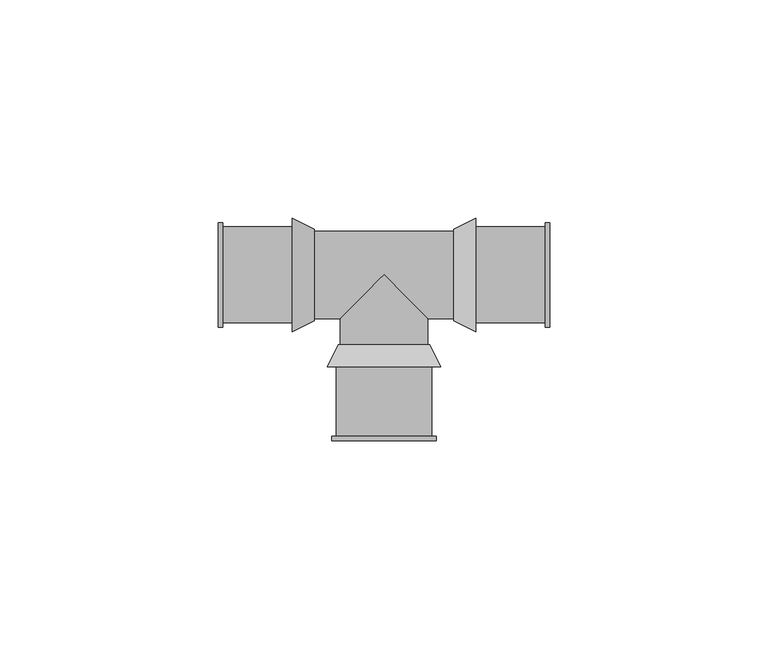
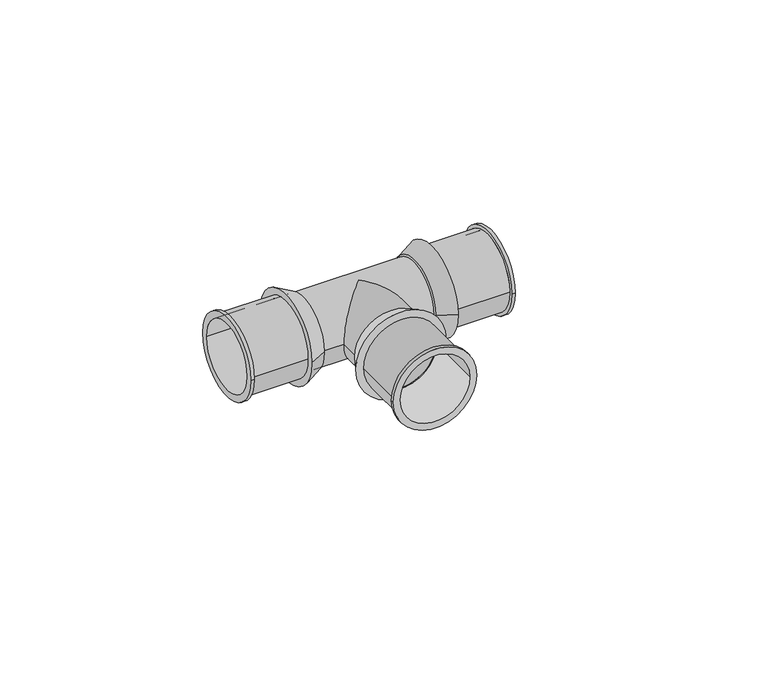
"""IFC4 building model written with IfcOpenShell, lengths in millimetres: pipe fitting geometry, SuperPipe_Tee_SPressPlus : SuperPipe_Tee_SPressPlus."""

from ifc_helpers import new_model, si_unit, point, frame, origin, origin_2d, place, context, project, spatial, polyline, circle_curve, ellipse_curve, trimmed, segment, composite_curve, outline, extrude, source, transform, mapped, element, save
from ifc_brep_helpers import plane_surface, cylinder_surface, revolved_surface, advanced_brep


def pipe_fitting_a59ca56d(model_context):
    return source(origin(), model_context, "Body", "SolidModel", [
        advanced_brep(
        [(-38.0, -12.0, 0.0), (-38.0, 12.0, 0.0), (-38.0, -10.0, 0.0), (-38.0, 10.0, 0.0), (-21.0, -11.0, 0.0), (-21.0, 11.0, 0.0), (-21.0, -10.0, 0.0), (-21.0, 10.0, 0.0), (-37.0, -10.0, 0.0), (-37.0, 10.0, 0.0), (-37.0, 11.0, 0.0), (-37.0, -11.0, 0.0), (-37.0, -12.0, 0.0), (-37.0, 12.0, 0.0)],
        [
            (0, 1, circle_curve(frame((-38.0, 0.0, 0.0), z_axis=(-1.0, 0.0, 0.0), x_axis=(0.0, 1.0, 0.0)), 12.0)),
            (1, 0, circle_curve(frame((-38.0, 0.0, 0.0), z_axis=(-1.0, 0.0, 0.0), x_axis=(0.0, 1.0, 0.0)), 12.0)),
            (2, 3, circle_curve(frame((-38.0, 0.0, 0.0), z_axis=(1.0, 0.0, 0.0), x_axis=(0.0, 1.0, 0.0)), 10.0)),
            (3, 2, circle_curve(frame((-38.0, 0.0, 0.0), z_axis=(1.0, 0.0, 0.0), x_axis=(0.0, 1.0, 0.0)), 10.0)),
            (4, 5, circle_curve(frame((-21.0, 0.0, 0.0), z_axis=(1.0, 0.0, 0.0), x_axis=(0.0, 1.0, 0.0)), 11.0)),
            (5, 4, circle_curve(frame((-21.0, 0.0, 0.0), z_axis=(1.0, 0.0, 0.0), x_axis=(0.0, 1.0, 0.0)), 11.0)),
            (6, 7, circle_curve(frame((-21.0, 0.0, 0.0), z_axis=(-1.0, 0.0, 0.0), x_axis=(0.0, 1.0, 0.0)), 10.0)),
            (7, 6, circle_curve(frame((-21.0, 0.0, 0.0), z_axis=(-1.0, 0.0, 0.0), x_axis=(0.0, 1.0, 0.0)), 10.0)),
            (2, 8),
            (8, 6),
            (7, 9),
            (9, 3),
            (5, 10),
            (10, 11, circle_curve(frame((-37.0, 0.0, 0.0), z_axis=(1.0, 0.0, 0.0), x_axis=(0.0, 1.0, 0.0)), 11.0)),
            (11, 4),
            (11, 10, circle_curve(frame((-37.0, 0.0, 0.0), z_axis=(1.0, 0.0, 0.0), x_axis=(0.0, 1.0, 0.0)), 11.0)),
            (12, 13, circle_curve(frame((-37.0, 0.0, 0.0), z_axis=(1.0, 0.0, 0.0), x_axis=(0.0, 1.0, 0.0)), 12.0)),
            (13, 12, circle_curve(frame((-37.0, 0.0, 0.0), z_axis=(1.0, 0.0, 0.0), x_axis=(0.0, 1.0, 0.0)), 12.0)),
            (0, 12),
            (13, 1),
        ],
        [
            plane_surface(frame((-38.0, 0.0, 0.0), z_axis=(-1.0, 0.0, 0.0), x_axis=(0.0, 0.0, 1.0))),
            plane_surface(frame((-21.0, 0.0, 0.0), z_axis=(1.0, 0.0, 0.0), x_axis=(0.0, 0.0, 1.0))),
            revolved_surface(polyline([(-21.0, 10.0, 0.0), (-38.0, 10.0, 0.0)]), (-38.0, 0.0, 0.0), (1.0, 0.0, 0.0)),
            cylinder_surface(frame((-38.0, 0.0, 0.0), z_axis=(-1.0, 0.0, 0.0), x_axis=(0.0, 1.0, 0.0)), 11.0),
            plane_surface(frame((-37.0, 0.0, 0.0), z_axis=(1.0, 0.0, 0.0), x_axis=(0.0, 0.0, 1.0))),
            cylinder_surface(frame((-38.0, 0.0, 0.0), z_axis=(-1.0, 0.0, 0.0), x_axis=(0.0, 1.0, 0.0)), 12.0),
        ],
        [
            (0, [[1, 2], [3, 4]]),
            (1, [[5, 6], [7, 8]]),
            (2, [[-3, 9, 10, -8, 11, 12]]),
            (2, [[-4, -12, -11, -7, -10, -9]]),
            (3, [[-6, 13, 14, 15]]),
            (3, [[-5, -15, 16, -13]]),
            (4, [[17, 18], [-14, -16]]),
            (5, [[-1, 19, -18, 20]]),
            (5, [[-2, -20, -17, -19]]),
        ],
    ),
        advanced_brep(
        [(21.0, -11.0, 0.0), (21.0, 11.0, 0.0), (21.0, -10.0, 0.0), (21.0, 10.0, 0.0), (38.0, -12.0, 0.0), (38.0, 12.0, 0.0), (38.0, -10.0, 0.0), (38.0, 10.0, 0.0), (37.0, -11.0, 0.0), (37.0, 11.0, 0.0), (37.0, -10.0, 0.0), (37.0, 10.0, 0.0), (37.0, -12.0, 0.0), (37.0, 12.0, 0.0)],
        [
            (0, 1, circle_curve(frame((21.0, 0.0, 0.0), z_axis=(-1.0, 0.0, 0.0), x_axis=(0.0, 1.0, 0.0)), 11.0)),
            (1, 0, circle_curve(frame((21.0, 0.0, 0.0), z_axis=(-1.0, 0.0, 0.0), x_axis=(0.0, 1.0, 0.0)), 11.0)),
            (2, 3, circle_curve(frame((21.0, 0.0, 0.0), z_axis=(1.0, 0.0, 0.0), x_axis=(0.0, 1.0, 0.0)), 10.0)),
            (3, 2, circle_curve(frame((21.0, 0.0, 0.0), z_axis=(1.0, 0.0, 0.0), x_axis=(0.0, 1.0, 0.0)), 10.0)),
            (4, 5, circle_curve(frame((38.0, 0.0, 0.0), z_axis=(1.0, 0.0, 0.0), x_axis=(0.0, 1.0, 0.0)), 12.0)),
            (5, 4, circle_curve(frame((38.0, 0.0, 0.0), z_axis=(1.0, 0.0, 0.0), x_axis=(0.0, 1.0, 0.0)), 12.0)),
            (6, 7, circle_curve(frame((38.0, 0.0, 0.0), z_axis=(-1.0, 0.0, 0.0), x_axis=(0.0, 1.0, 0.0)), 10.0)),
            (7, 6, circle_curve(frame((38.0, 0.0, 0.0), z_axis=(-1.0, 0.0, 0.0), x_axis=(0.0, 1.0, 0.0)), 10.0)),
            (0, 8),
            (8, 9, circle_curve(frame((37.0, 0.0, 0.0), z_axis=(-1.0, 0.0, 0.0), x_axis=(0.0, 1.0, 0.0)), 11.0)),
            (9, 1),
            (9, 8, circle_curve(frame((37.0, 0.0, 0.0), z_axis=(-1.0, 0.0, 0.0), x_axis=(0.0, 1.0, 0.0)), 11.0)),
            (2, 10),
            (10, 6),
            (7, 11),
            (11, 3),
            (12, 13, circle_curve(frame((37.0, 0.0, 0.0), z_axis=(-1.0, 0.0, 0.0), x_axis=(0.0, 1.0, 0.0)), 12.0)),
            (13, 12, circle_curve(frame((37.0, 0.0, 0.0), z_axis=(-1.0, 0.0, 0.0), x_axis=(0.0, 1.0, 0.0)), 12.0)),
            (12, 4),
            (5, 13),
        ],
        [
            plane_surface(frame((21.0, 0.0, 0.0), z_axis=(-1.0, 0.0, 0.0), x_axis=(0.0, 0.0, 1.0))),
            plane_surface(frame((38.0, 0.0, 0.0), z_axis=(1.0, 0.0, 0.0), x_axis=(0.0, 0.0, 1.0))),
            cylinder_surface(frame((21.0, 0.0, 0.0), z_axis=(-1.0, 0.0, 0.0), x_axis=(0.0, 1.0, 0.0)), 11.0),
            revolved_surface(polyline([(38.0, 10.0, 0.0), (21.0, 10.0, 0.0)]), (21.0, 0.0, 0.0), (1.0, 0.0, 0.0)),
            plane_surface(frame((37.0, 0.0, 0.0), z_axis=(-1.0, 0.0, 0.0), x_axis=(0.0, 0.0, 1.0))),
            cylinder_surface(frame((37.0, 0.0, 0.0), z_axis=(-1.0, 0.0, 0.0), x_axis=(0.0, 1.0, 0.0)), 12.0),
        ],
        [
            (0, [[1, 2], [3, 4]]),
            (1, [[5, 6], [7, 8]]),
            (2, [[-1, 9, 10, 11]]),
            (2, [[-2, -11, 12, -9]]),
            (3, [[-3, 13, 14, -8, 15, 16]]),
            (3, [[-4, -16, -15, -7, -14, -13]]),
            (4, [[17, 18], [-10, -12]]),
            (5, [[-17, 19, -6, 20]]),
            (5, [[-18, -20, -5, -19]]),
        ],
    ),
        advanced_brep(
        [(-13.0, -21.0, 0.0), (13.0, -21.0, 0.0), (-10.0, -21.0, 0.0), (10.0, -21.0, 0.0), (-10.5, -16.0, 0.0), (10.5, -16.0, 0.0), (-10.0, -17.0, 0.0), (10.0, -17.0, 0.0)],
        [
            (0, 1, circle_curve(frame((0.0, -21.0, 0.0), z_axis=(0.0, -1.0, 0.0), x_axis=(-1.0, 0.0, 0.0)), 13.0)),
            (1, 0, circle_curve(frame((0.0, -21.0, 0.0), z_axis=(0.0, -1.0, 0.0), x_axis=(1.0, 0.0, 0.0)), 13.0)),
            (2, 3, circle_curve(frame((0.0, -21.0, 0.0), z_axis=(0.0, 1.0, 0.0), x_axis=(1.0, 0.0, 0.0)), 10.0)),
            (3, 2, circle_curve(frame((0.0, -21.0, 0.0), z_axis=(0.0, 1.0, 0.0), x_axis=(1.0, 0.0, 0.0)), 10.0)),
            (4, 5, circle_curve(frame((0.0, -16.0, 0.0), z_axis=(0.0, 1.0, 0.0), x_axis=(1.0, 0.0, 0.0)), 10.5)),
            (5, 4, circle_curve(frame((0.0, -16.0, 0.0), z_axis=(0.0, 1.0, 0.0), x_axis=(-1.0, 0.0, 0.0)), 10.5)),
            (0, 4),
            (5, 1),
            (6, 7, circle_curve(frame((0.0, -17.0, 0.0), z_axis=(0.0, -1.0, 0.0), x_axis=(1.0, 0.0, 0.0)), 10.0)),
            (7, 6, circle_curve(frame((0.0, -17.0, 0.0), z_axis=(0.0, -1.0, 0.0), x_axis=(1.0, 0.0, 0.0)), 10.0)),
            (7, 3),
            (2, 6),
        ],
        [
            plane_surface(frame((0.0, -21.0, 0.0), z_axis=(0.0, -1.0, 0.0), x_axis=(0.0, 0.0, -1.0))),
            plane_surface(frame((0.0, -16.0, 0.0), z_axis=(0.0, 1.0, 0.0), x_axis=(0.0, 0.0, -1.0))),
            revolved_surface(polyline([(10.5, -16.0, 0.0), (13.0, -21.0, 0.0)]), (0.0, 5.0, 0.0), (0.0, -1.0, 0.0)),
            revolved_surface(polyline([(-10.5, -16.0, 0.0), (-13.0, -21.0, 0.0)]), (0.0, 5.0, 0.0), (0.0, -1.0, 0.0)),
            plane_surface(frame((0.0, -17.0, 0.0), z_axis=(0.0, -1.0, 0.0), x_axis=(0.0, 0.0, 1.0))),
            revolved_surface(polyline([(10.0, -17.0, 0.0), (10.0, -21.0, 0.0)]), (0.0, -17.0, 0.0), (0.0, 1.0, 0.0)),
        ],
        [
            (0, [[1, 2], [3, 4]]),
            (1, [[5, 6]]),
            (2, [[-1, 7, -6, 8]]),
            (3, [[-2, -8, -5, -7]]),
            (4, [[9, 10]]),
            (5, [[-10, 11, -3, 12]]),
            (5, [[-9, -12, -4, -11]]),
        ],
    ),
        advanced_brep(
        [(21.0, -13.0, 0.0), (21.0, 13.0, 0.0), (21.0, 10.0, 0.0), (21.0, -10.0, 0.0), (16.0, -10.5, 0.0), (16.0, 10.5, 0.0), (17.0, -10.0, 0.0), (17.0, 10.0, 0.0)],
        [
            (0, 1, circle_curve(frame((21.0, 0.0, 0.0), z_axis=(1.0, 0.0, 0.0), x_axis=(0.0, -1.0, 0.0)), 13.0)),
            (1, 0, circle_curve(frame((21.0, 0.0, 0.0), z_axis=(1.0, 0.0, 0.0), x_axis=(0.0, 1.0, 0.0)), 13.0)),
            (2, 3, circle_curve(frame((21.0, 0.0, 0.0), z_axis=(-1.0, 0.0, 0.0), x_axis=(0.0, 1.0, 0.0)), 10.0)),
            (3, 2, circle_curve(frame((21.0, 0.0, 0.0), z_axis=(-1.0, 0.0, 0.0), x_axis=(0.0, 1.0, 0.0)), 10.0)),
            (4, 5, circle_curve(frame((16.0, 0.0, 0.0), z_axis=(-1.0, 0.0, 0.0), x_axis=(0.0, 1.0, 0.0)), 10.5)),
            (5, 4, circle_curve(frame((16.0, 0.0, 0.0), z_axis=(-1.0, 0.0, 0.0), x_axis=(0.0, -1.0, 0.0)), 10.5)),
            (0, 4),
            (5, 1),
            (6, 7, circle_curve(frame((17.0, 0.0, 0.0), z_axis=(1.0, 0.0, 0.0), x_axis=(0.0, 1.0, 0.0)), 10.0)),
            (7, 6, circle_curve(frame((17.0, 0.0, 0.0), z_axis=(1.0, 0.0, 0.0), x_axis=(0.0, 1.0, 0.0)), 10.0)),
            (6, 3),
            (2, 7),
        ],
        [
            plane_surface(frame((21.0, 0.0, 0.0), z_axis=(1.0, 0.0, 0.0), x_axis=(0.0, 0.0, -1.0))),
            plane_surface(frame((16.0, 0.0, 0.0), z_axis=(-1.0, 0.0, 0.0), x_axis=(0.0, 0.0, -1.0))),
            revolved_surface(polyline([(16.0, 10.5, 0.0), (21.0, 13.0, 0.0)]), (-5.0, 0.0, 0.0), (1.0, 0.0, 0.0)),
            revolved_surface(polyline([(16.0, -10.5, 0.0), (21.0, -13.0, 0.0)]), (-5.0, 0.0, 0.0), (1.0, 0.0, 0.0)),
            plane_surface(frame((17.0, 10.0, 0.0), z_axis=(1.0, 0.0, 0.0), x_axis=(0.0, 0.0, -1.0))),
            revolved_surface(polyline([(21.0, 10.0, 0.0), (17.0, 10.0, 0.0)]), (17.0, 0.0, 0.0), (1.0, 0.0, 0.0)),
        ],
        [
            (0, [[1, 2], [3, 4]]),
            (1, [[5, 6]]),
            (2, [[-1, 7, -6, 8]]),
            (3, [[-2, -8, -5, -7]]),
            (4, [[9, 10]]),
            (5, [[-9, 11, -3, 12]]),
            (5, [[-10, -12, -4, -11]]),
        ],
    ),
        advanced_brep(
        [(-16.0, -10.5, 0.0), (-16.0, 10.5, 0.0), (-21.0, -13.0, 0.0), (-21.0, 13.0, 0.0), (-21.0, -10.0, 0.0), (-21.0, 10.0, 0.0), (-17.0, -10.0, 0.0), (-17.0, 10.0, 0.0)],
        [
            (0, 1, circle_curve(frame((-16.0, 0.0, 0.0), z_axis=(1.0, 0.0, 0.0), x_axis=(0.0, -1.0, 0.0)), 10.5)),
            (1, 0, circle_curve(frame((-16.0, 0.0, 0.0), z_axis=(1.0, 0.0, 0.0), x_axis=(0.0, 1.0, 0.0)), 10.5)),
            (2, 3, circle_curve(frame((-21.0, 0.0, 0.0), z_axis=(-1.0, 0.0, 0.0), x_axis=(0.0, 1.0, 0.0)), 13.0)),
            (3, 2, circle_curve(frame((-21.0, 0.0, 0.0), z_axis=(-1.0, 0.0, 0.0), x_axis=(0.0, -1.0, 0.0)), 13.0)),
            (4, 5, circle_curve(frame((-21.0, 0.0, 0.0), z_axis=(1.0, 0.0, 0.0), x_axis=(0.0, 1.0, 0.0)), 10.0)),
            (5, 4, circle_curve(frame((-21.0, 0.0, 0.0), z_axis=(1.0, 0.0, 0.0), x_axis=(0.0, 1.0, 0.0)), 10.0)),
            (0, 2),
            (3, 1),
            (6, 7, circle_curve(frame((-17.0, 0.0, 0.0), z_axis=(-1.0, 0.0, 0.0), x_axis=(0.0, 1.0, 0.0)), 10.0)),
            (7, 6, circle_curve(frame((-17.0, 0.0, 0.0), z_axis=(-1.0, 0.0, 0.0), x_axis=(0.0, 1.0, 0.0)), 10.0)),
            (7, 5),
            (4, 6),
        ],
        [
            plane_surface(frame((-16.0, 0.0, 0.0), z_axis=(1.0, 0.0, 0.0), x_axis=(0.0, 0.0, -1.0))),
            plane_surface(frame((-21.0, 0.0, 0.0), z_axis=(-1.0, 0.0, 0.0), x_axis=(0.0, 0.0, -1.0))),
            revolved_surface(polyline([(-16.0, -10.5, 0.0), (-21.0, -13.0, 0.0)]), (5.0, 0.0, 0.0), (-1.0, 0.0, 0.0)),
            revolved_surface(polyline([(-16.0, 10.5, 0.0), (-21.0, 13.0, 0.0)]), (5.0, 0.0, 0.0), (-1.0, 0.0, 0.0)),
            plane_surface(frame((-17.0, 10.0, 0.0), z_axis=(-1.0, 0.0, 0.0), x_axis=(0.0, 0.0, 1.0))),
            revolved_surface(polyline([(-17.0, 10.0, 0.0), (-21.0, 10.0, 0.0)]), (-21.0, 0.0, 0.0), (1.0, 0.0, 0.0)),
        ],
        [
            (0, [[1, 2]]),
            (1, [[3, 4], [5, 6]]),
            (2, [[-1, 7, -4, 8]]),
            (3, [[-2, -8, -3, -7]]),
            (4, [[9, 10]]),
            (5, [[-10, 11, -5, 12]]),
            (5, [[-9, -12, -6, -11]]),
        ],
    ),
        advanced_brep(
        [(-10.0, -16.0, 0.0), (10.0, -16.0, 0.0), (10.0, -10.0, 0.0), (0.0, 0.0, 10.0), (-10.0, -10.0, 0.0), (0.0, 0.0, -10.0)],
        [
            (0, 1, circle_curve(frame((0.0, -16.0, 0.0), z_axis=(0.0, -1.0, 0.0), x_axis=(1.0, 0.0, 0.0)), 10.0)),
            (1, 0, circle_curve(frame((0.0, -16.0, 0.0), z_axis=(0.0, -1.0, 0.0), x_axis=(1.0, 0.0, 0.0)), 10.0)),
            (1, 2),
            (2, 3, ellipse_curve(frame((0.0, 0.0, 0.0), z_axis=(-0.7071067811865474, -0.7071067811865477, 0.0), x_axis=(-0.7071067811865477, 0.7071067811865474, 0.0)), 14.1421356, 10.0)),
            (3, 4, ellipse_curve(frame((0.0, 0.0, 0.0), z_axis=(0.7071067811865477, -0.7071067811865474, 0.0), x_axis=(0.7071067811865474, 0.7071067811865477, 0.0)), 14.1421356, 10.0)),
            (4, 0),
            (4, 5, ellipse_curve(frame((0.0, 0.0, 0.0), z_axis=(0.7071067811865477, -0.7071067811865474, 0.0), x_axis=(0.7071067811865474, 0.7071067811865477, 0.0)), 14.1421356, 10.0)),
            (5, 2, ellipse_curve(frame((0.0, 0.0, 0.0), z_axis=(-0.7071067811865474, -0.7071067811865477, 0.0), x_axis=(-0.7071067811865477, 0.7071067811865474, 0.0)), 14.1421356, 10.0)),
            (2, 4),
        ],
        [
            plane_surface(frame((0.0, -16.0, 0.0), z_axis=(0.0, -1.0, 0.0), x_axis=(0.0, 0.0, 1.0))),
            cylinder_surface(frame((0.0, 0.0, 0.0), z_axis=(0.0, 1.0, 0.0), x_axis=(1.0, 0.0, 0.0)), 10.0),
            revolved_surface(polyline([(-10.0, 10.0, 0.0), (10.0, 10.0, 0.0)]), (-94.8358145, 0.0, 0.0), (-1.0, 0.0, 0.0)),
        ],
        [
            (0, [[1, 2]]),
            (1, [[-2, 3, 4, 5, 6]]),
            (1, [[-1, -6, 7, 8, -3]]),
            (2, [[9, -5, -4]]),
            (2, [[-9, -8, -7]]),
        ],
    ),
        advanced_brep(
        [(-11.0, -21.0, 0.0), (11.0, -21.0, 0.0), (-10.0, -21.0, 0.0), (10.0, -21.0, 0.0), (-12.0, -38.0, 0.0), (12.0, -38.0, 0.0), (-10.0, -38.0, 0.0), (10.0, -38.0, 0.0), (-11.0, -37.0, 0.0), (11.0, -37.0, 0.0), (-12.0, -37.0, 0.0), (12.0, -37.0, 0.0)],
        [
            (0, 1, circle_curve(frame((0.0, -21.0, 0.0), z_axis=(0.0, 1.0, 0.0), x_axis=(1.0, 0.0, 0.0)), 11.0)),
            (1, 0, circle_curve(frame((0.0, -21.0, 0.0), z_axis=(0.0, 1.0, 0.0), x_axis=(1.0, 0.0, 0.0)), 11.0)),
            (2, 3, circle_curve(frame((0.0, -21.0, 0.0), z_axis=(0.0, -1.0, 0.0), x_axis=(1.0, 0.0, 0.0)), 10.0)),
            (3, 2, circle_curve(frame((0.0, -21.0, 0.0), z_axis=(0.0, -1.0, 0.0), x_axis=(1.0, 0.0, 0.0)), 10.0)),
            (4, 5, circle_curve(frame((0.0, -38.0, 0.0), z_axis=(0.0, -1.0, 0.0), x_axis=(1.0, 0.0, 0.0)), 12.0)),
            (5, 4, circle_curve(frame((0.0, -38.0, 0.0), z_axis=(0.0, -1.0, 0.0), x_axis=(1.0, 0.0, 0.0)), 12.0)),
            (6, 7, circle_curve(frame((0.0, -38.0, 0.0), z_axis=(0.0, 1.0, 0.0), x_axis=(1.0, 0.0, 0.0)), 10.0)),
            (7, 6, circle_curve(frame((0.0, -38.0, 0.0), z_axis=(0.0, 1.0, 0.0), x_axis=(1.0, 0.0, 0.0)), 10.0)),
            (2, 6),
            (7, 3),
            (0, 8),
            (8, 9, circle_curve(frame((0.0, -37.0, 0.0), z_axis=(0.0, 1.0, 0.0), x_axis=(1.0, 0.0, 0.0)), 11.0)),
            (9, 1),
            (9, 8, circle_curve(frame((0.0, -37.0, 0.0), z_axis=(0.0, 1.0, 0.0), x_axis=(1.0, 0.0, 0.0)), 11.0)),
            (10, 11, circle_curve(frame((0.0, -37.0, 0.0), z_axis=(0.0, 1.0, 0.0), x_axis=(1.0, 0.0, 0.0)), 12.0)),
            (11, 10, circle_curve(frame((0.0, -37.0, 0.0), z_axis=(0.0, 1.0, 0.0), x_axis=(1.0, 0.0, 0.0)), 12.0)),
            (10, 4),
            (5, 11),
        ],
        [
            plane_surface(frame((0.0, -21.0, 0.0), z_axis=(0.0, 1.0, 0.0), x_axis=(0.0, 0.0, 1.0))),
            plane_surface(frame((0.0, -38.0, 0.0), z_axis=(0.0, -1.0, 0.0), x_axis=(0.0, 0.0, 1.0))),
            revolved_surface(polyline([(10.0, -38.0, 0.0), (10.0, -21.0, 0.0)]), (0.0, -21.0, 0.0), (0.0, -1.0, 0.0)),
            cylinder_surface(frame((0.0, -21.0, 0.0), z_axis=(0.0, 1.0, 0.0), x_axis=(1.0, 0.0, 0.0)), 11.0),
            plane_surface(frame((0.0, -37.0, 0.0), z_axis=(0.0, 1.0, 0.0), x_axis=(0.0, 0.0, 1.0))),
            cylinder_surface(frame((0.0, -37.0, 0.0), z_axis=(0.0, 1.0, 0.0), x_axis=(1.0, 0.0, 0.0)), 12.0),
        ],
        [
            (0, [[1, 2], [3, 4]]),
            (1, [[5, 6], [7, 8]]),
            (2, [[-3, 9, -8, 10]]),
            (2, [[-4, -10, -7, -9]]),
            (3, [[-1, 11, 12, 13]]),
            (3, [[-2, -13, 14, -11]]),
            (4, [[15, 16], [-12, -14]]),
            (5, [[-15, 17, -6, 18]]),
            (5, [[-16, -18, -5, -17]]),
        ],
    ),
        extrude(outline(composite_curve([segment(trimmed(circle_curve(origin_2d(), 10.0), [point((-10.0, 0.0))], [point((10.0, 0.0))], False, "CARTESIAN"), True, "CONTINUOUS"), segment(trimmed(circle_curve(origin_2d(), 10.0), [point((10.0, 0.0))], [point((-10.0, 0.0))], False, "CARTESIAN"), True, "CONTINUOUS")], self_intersect=False)), frame((-16.0, 0.0, 0.0), z_axis=(1.0, 0.0, 0.0), x_axis=(0.0, 1.0, 0.0)), (0.0, 0.0, 1.0), 32.0),
    ])


if __name__ == "__main__":
    model = new_model("IFC4")
    model_context = context("Model", 3, world=origin())
    ifc_project = project(units=[si_unit("LENGTHUNIT", "METRE", prefix="MILLI")], contexts=[model_context])
    site = spatial("IfcSite", under=ifc_project)
    building = spatial("IfcBuilding", under=site)
    placement = place(None, origin())
    pipe_fitting_shape = pipe_fitting_a59ca56d(model_context)
    element("IfcPipeFitting", 1, ObjectType="SuperPipe_Tee_SPressPlus : SuperPipe_Tee_SPressPlus", at=placement, inside=building, context=model_context, shape_type="MappedRepresentation", body=[
        mapped(pipe_fitting_shape, transform((0.0, 0.0, 0.0), x_axis=(1.0, 0.0, 0.0), y_axis=(0.0, 1.0, 0.0), z_axis=(0.0, 0.0, 1.0))),
    ])
    save(model, "model.ifc")
